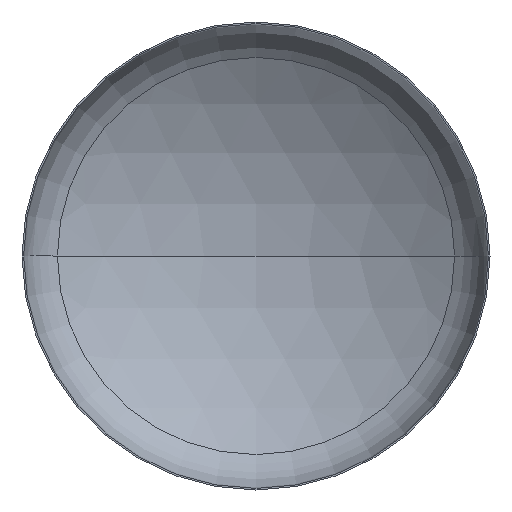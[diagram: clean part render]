
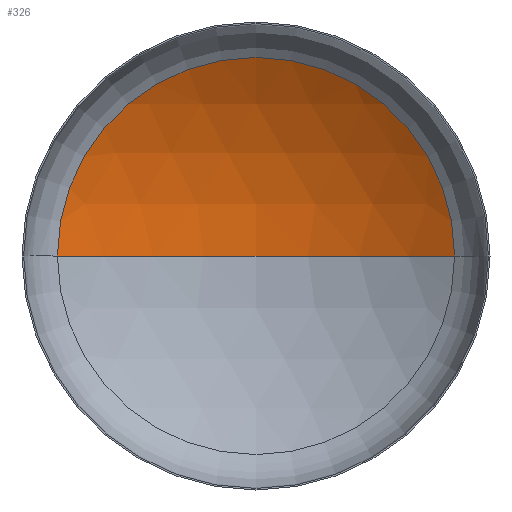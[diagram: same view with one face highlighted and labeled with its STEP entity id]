
A CAD part, front view. The second image highlights one B-rep face of the part: STEP entity #326.
In plain terms, the highlighted spherical face has radius 3040 mm.
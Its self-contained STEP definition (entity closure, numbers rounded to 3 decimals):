
#15 = EDGE_LOOP ( 'NONE', ( #113, #103, #45 ) ) ;
#22 = DIRECTION ( 'NONE',  ( 0., 0., -1. ) ) ;
#27 = AXIS2_PLACEMENT_3D ( 'NONE', #299, #167, #322 ) ;
#30 = AXIS2_PLACEMENT_3D ( 'NONE', #348, #355, #219 ) ;
#31 = AXIS2_PLACEMENT_3D ( 'NONE', #377, #169, #325 ) ;
#33 = CIRCLE ( 'NONE', #30, 3040. ) ;
#36 = AXIS2_PLACEMENT_3D ( 'NONE', #120, #22, #260 ) ;
#45 = ORIENTED_EDGE ( 'NONE', *, *, #330, .T. ) ;
#73 = FACE_OUTER_BOUND ( 'NONE', #15, .T. ) ;
#83 = VERTEX_POINT ( 'NONE', #411 ) ;
#87 = VERTEX_POINT ( 'NONE', #138 ) ;
#103 = ORIENTED_EDGE ( 'NONE', *, *, #332, .T. ) ;
#110 = VERTEX_POINT ( 'NONE', #367 ) ;
#113 = ORIENTED_EDGE ( 'NONE', *, *, #336, .F. ) ;
#120 = CARTESIAN_POINT ( 'NONE',  ( 0., -2041.303, 0. ) ) ;
#138 = CARTESIAN_POINT ( 'NONE',  ( 0., 998.697, 0. ) ) ;
#167 = DIRECTION ( 'NONE',  ( 0., 0., 1. ) ) ;
#169 = DIRECTION ( 'NONE',  ( 0., -1., 0. ) ) ;
#219 = DIRECTION ( 'NONE',  ( -1., 0., 0. ) ) ;
#242 = CIRCLE ( 'NONE', #31, 1612.253 ) ;
#260 = DIRECTION ( 'NONE',  ( -1., 0., 0. ) ) ;
#289 = CIRCLE ( 'NONE', #27, 3040. ) ;
#295 = SPHERICAL_SURFACE ( 'NONE', #36, 3040. ) ;
#299 = CARTESIAN_POINT ( 'NONE',  ( 0., -2041.303, 0. ) ) ;
#322 = DIRECTION ( 'NONE',  ( 1., 0., 0. ) ) ;
#325 = DIRECTION ( 'NONE',  ( 1., 0., 0. ) ) ;
#326 = ADVANCED_FACE ( 'NONE', ( #73 ), #295, .F. ) ;
#330 = EDGE_CURVE ( 'NONE', #110, #83, #242, .T. ) ;
#332 = EDGE_CURVE ( 'NONE', #87, #110, #33, .T. ) ;
#336 = EDGE_CURVE ( 'NONE', #87, #83, #289, .T. ) ;
#348 = CARTESIAN_POINT ( 'NONE',  ( 0., -2041.303, 0. ) ) ;
#355 = DIRECTION ( 'NONE',  ( 0., 0., -1. ) ) ;
#367 = CARTESIAN_POINT ( 'NONE',  ( 1612.253, 535.952, 0. ) ) ;
#377 = CARTESIAN_POINT ( 'NONE',  ( 0., 535.952, 0. ) ) ;
#411 = CARTESIAN_POINT ( 'NONE',  ( -1612.253, 535.952, 0. ) ) ;
